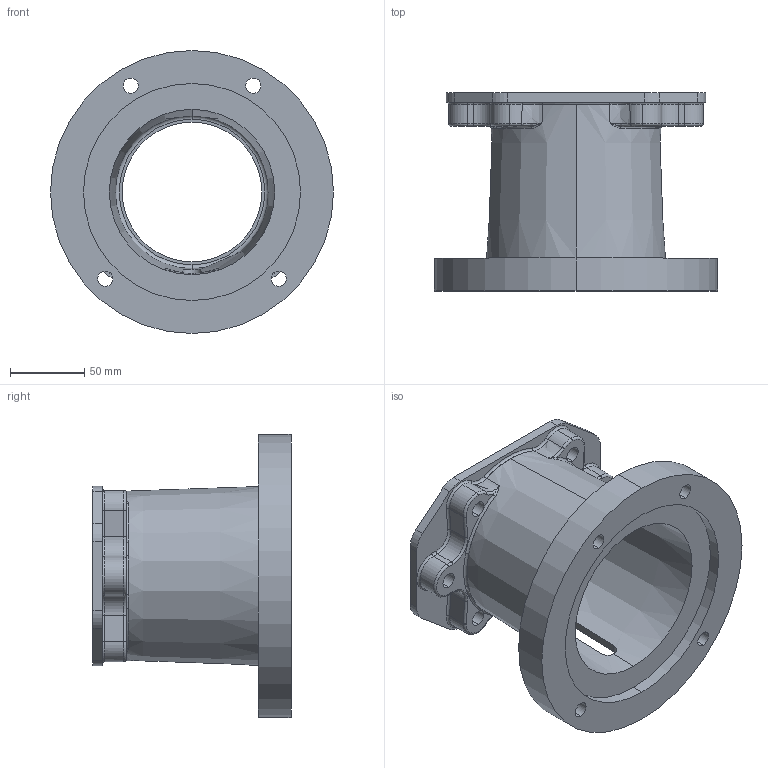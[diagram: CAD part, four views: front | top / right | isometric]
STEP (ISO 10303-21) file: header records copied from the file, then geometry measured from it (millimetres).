
FILE_DESCRIPTION (( 'STEP AP203' ), '1' );
FILE_NAME ('E575522B.STEP', '2014-11-03T15:56:34', ( '' ), ( '' ), 'SwSTEP 2.0', 'SolidWorks 2014', '' );
FILE_SCHEMA (( 'CONFIG_CONTROL_DESIGN' ));
Length unit declared in the file: inch
Products named in the file (1): E575522B
Bounding box: 190.5 x 133.35 x 190.5 mm (x, y, z)
Volume: 659674.8 mm3; surface area: 164538.1 mm2
Topology: 1 solids, 1 shells, 154 faces, 404 edges, 246 vertices
Faces by surface type: cylinder 64, torus 44, plane 26, bspline 16, cone 4
Entity records: 6037 total; most frequent: CARTESIAN_POINT 2109, DIRECTION 864, ORIENTED_EDGE 800, EDGE_CURVE 400, AXIS2_PLACEMENT_3D 373, VERTEX_POINT 246, CIRCLE 234, EDGE_LOOP 176
